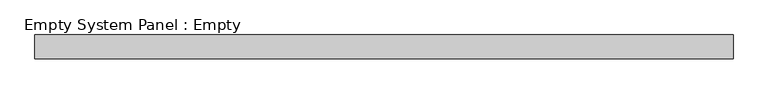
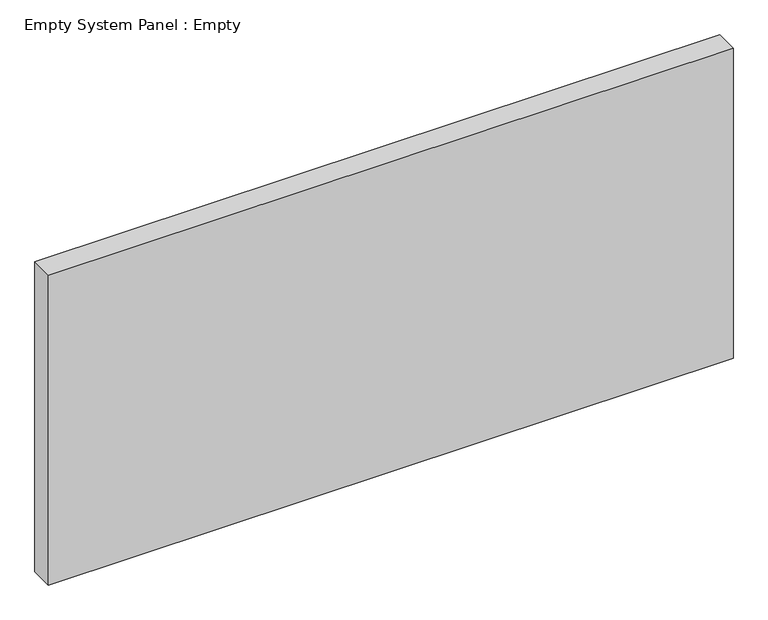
"""IFC4 building model written with IfcOpenShell, lengths in millimetres: plate geometry, Empty System Panel : Empty."""

from ifc_helpers import new_model, si_unit, origin, origin_with_axes, place, context, project, spatial, polyline, outline, extrude, source, transform, mapped, element, save


def empty_system_panel_empty_d68e6c83(model_context):
    return source(origin(), model_context, "Body", "SweptSolid", [
        extrude(outline(polyline([(1492.25, -50.8), (-1492.25, -50.8), (-1492.25, 50.8), (1492.25, 50.8), (1492.25, -50.8)])), origin_with_axes(), (0.0, 0.0, 1.0), 1428.75),
    ])


if __name__ == "__main__":
    model = new_model("IFC4")
    model_context = context("Model", 3, world=origin())
    ifc_project = project(units=[si_unit("LENGTHUNIT", "METRE", prefix="MILLI")], contexts=[model_context])
    site = spatial("IfcSite", under=ifc_project)
    building = spatial("IfcBuilding", under=site)
    placement = place(None, origin())
    empty_system_panel_empty_shape = empty_system_panel_empty_d68e6c83(model_context)
    element("IfcPlate", 1, ObjectType="Empty System Panel : Empty", at=placement, inside=building, context=model_context, shape_type="MappedRepresentation", body=[
        mapped(empty_system_panel_empty_shape, transform((0.0, 0.0, 0.0), x_axis=(1.0, 0.0, 0.0), y_axis=(0.0, 1.0, 0.0), z_axis=(0.0, 0.0, 1.0))),
    ])
    save(model, "model.ifc")
